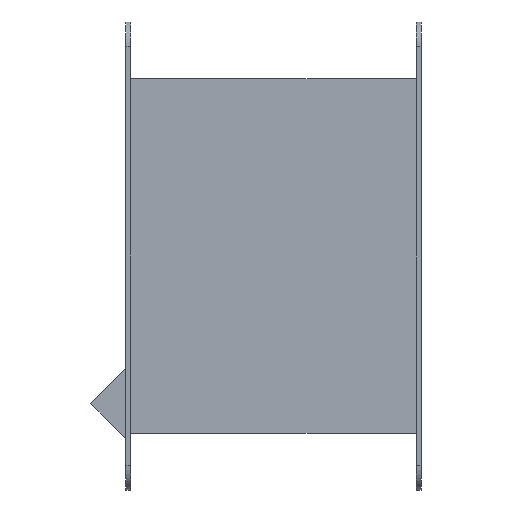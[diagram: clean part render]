
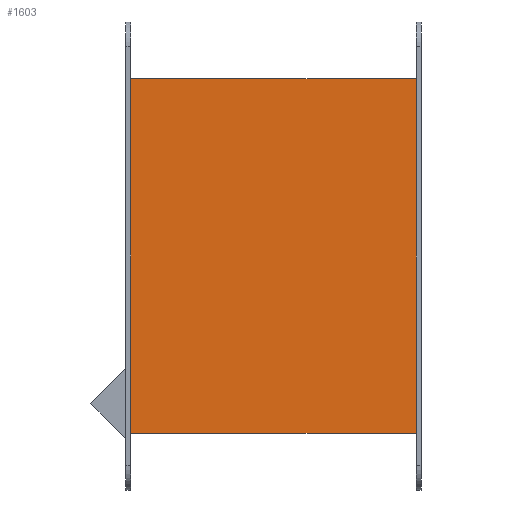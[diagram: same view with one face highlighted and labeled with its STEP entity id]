
A CAD part, left-side view. The second image highlights one B-rep face of the part: STEP entity #1603.
In plain terms, the highlighted planar face has unit normal (-1, 0, 0).
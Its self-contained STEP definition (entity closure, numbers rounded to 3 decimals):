
#131=LINE('',#2647,#287);
#145=LINE('',#2686,#301);
#161=LINE('',#2729,#317);
#162=LINE('',#2730,#318);
#287=VECTOR('',#2101,10.);
#301=VECTOR('',#2133,10.);
#317=VECTOR('',#2183,10.);
#318=VECTOR('',#2184,10.);
#374=PLANE('',#1755);
#524=FACE_OUTER_BOUND('',#634,.T.);
#634=EDGE_LOOP('',(#1444,#1445,#1446,#1447));
#838=VERTEX_POINT('',#2644);
#839=VERTEX_POINT('',#2646);
#854=VERTEX_POINT('',#2683);
#855=VERTEX_POINT('',#2685);
#1034=EDGE_CURVE('',#839,#838,#131,.T.);
#1053=EDGE_CURVE('',#855,#854,#145,.T.);
#1075=EDGE_CURVE('',#855,#838,#161,.F.);
#1076=EDGE_CURVE('',#854,#839,#162,.T.);
#1444=ORIENTED_EDGE('',*,*,#1034,.T.);
#1445=ORIENTED_EDGE('',*,*,#1075,.F.);
#1446=ORIENTED_EDGE('',*,*,#1053,.T.);
#1447=ORIENTED_EDGE('',*,*,#1076,.T.);
#1603=ADVANCED_FACE('',(#524),#374,.T.);
#1755=AXIS2_PLACEMENT_3D('',#2728,#2181,#2182);
#2101=DIRECTION('',(0.,0.,-1.));
#2133=DIRECTION('',(0.,0.,1.));
#2181=DIRECTION('center_axis',(-1.,0.,0.));
#2182=DIRECTION('ref_axis',(0.,0.,1.));
#2183=DIRECTION('',(0.,-1.,0.));
#2184=DIRECTION('',(0.,1.,0.));
#2644=CARTESIAN_POINT('',(-147.,58.,-72.));
#2646=CARTESIAN_POINT('',(-147.,58.,72.));
#2647=CARTESIAN_POINT('',(-147.,58.,-35.));
#2683=CARTESIAN_POINT('',(-147.,-58.,72.));
#2685=CARTESIAN_POINT('',(-147.,-58.,-72.));
#2686=CARTESIAN_POINT('',(-147.,-58.,-35.));
#2728=CARTESIAN_POINT('Origin',(-147.,-60.,-70.));
#2729=CARTESIAN_POINT('',(-147.,-60.,-72.));
#2730=CARTESIAN_POINT('',(-147.,-60.,72.));
